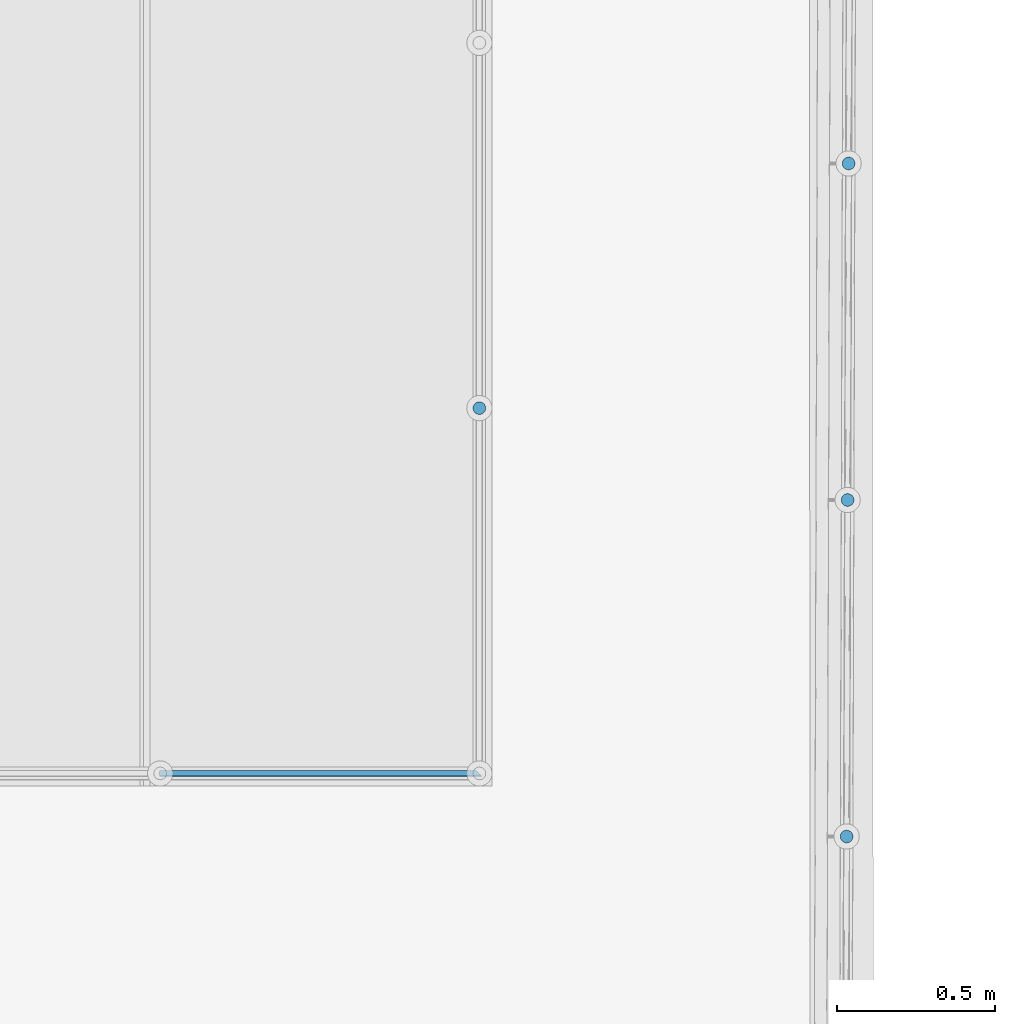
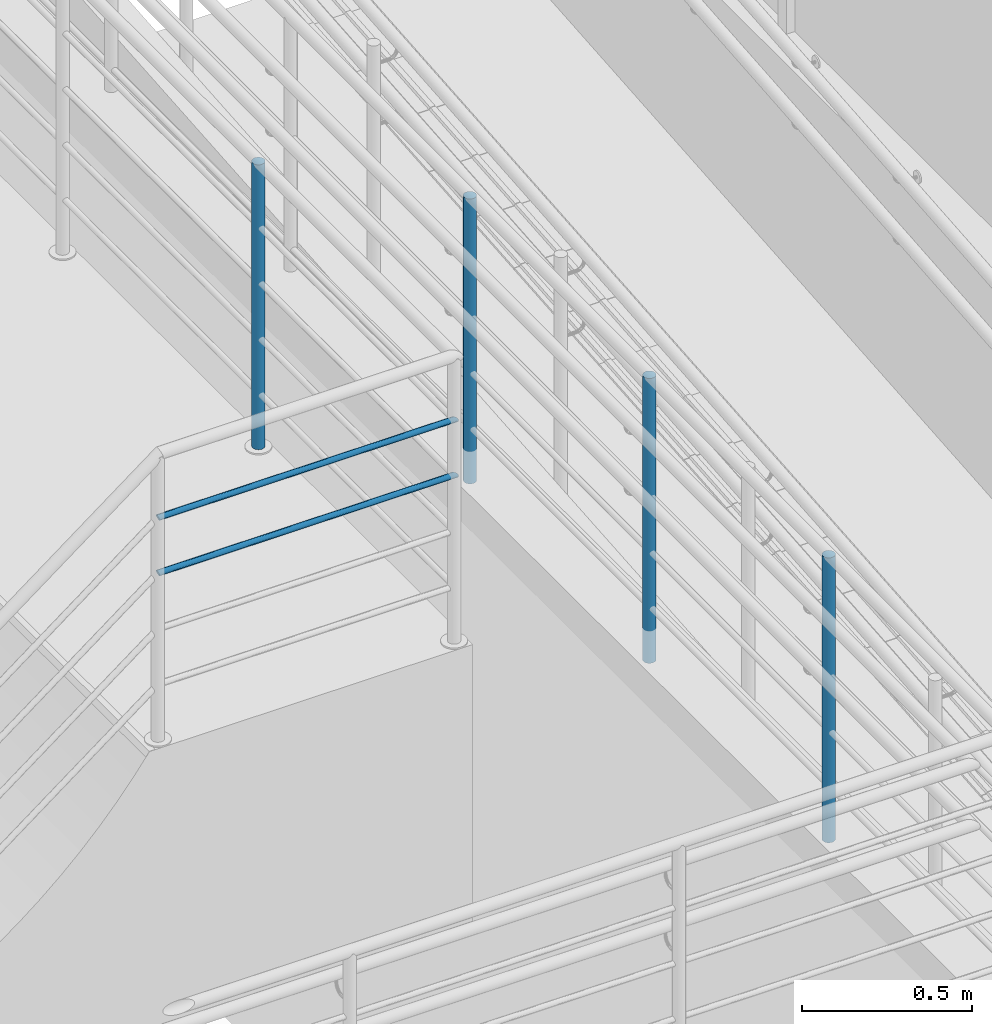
# One storey, part 45 of 237: 6 building element parts, 2 elements without a shape of their own.
"""IFC2X3 building model written with IfcOpenShell, lengths in millimetres."""

from ifc_helpers import new_model, entity, si_unit, converted_unit, derived_unit, money_unit, direction, frame, origin_with_axes, place, context, subcontext, project, spatial, faceted_brep, material, type_object, element, aggregate, save


model = new_model("IFC2X3")

# Units and contexts
model_context = context("Model", 3, precision=0.01, world=origin_with_axes(), true_north=direction((0.0, 1.0)))
body_context = subcontext(model_context, "Body", "Model", "MODEL_VIEW")
ifc_project = project(units=[si_unit("LENGTHUNIT", "METRE", prefix="MILLI"), si_unit("AREAUNIT", "SQUARE_METRE"), si_unit("VOLUMEUNIT", "CUBIC_METRE"), converted_unit("PLANEANGLEUNIT", "DEGREE", entity("IfcPlaneAngleMeasure", 0.0174532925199), si_unit("PLANEANGLEUNIT", "RADIAN"), dimensions=[0, 0, 0, 0, 0, 0, 0]), money_unit("USD"), converted_unit("TIMEUNIT", "Year", entity("IfcTimeMeasure", 31556926.0), si_unit("TIMEUNIT", "SECOND"), dimensions=[0, 0, 1, 0, 0, 0, 0]), si_unit("MASSUNIT", "GRAM", prefix="KILO"), si_unit("THERMODYNAMICTEMPERATUREUNIT", "DEGREE_CELSIUS"), si_unit("LUMINOUSINTENSITYUNIT", "LUMEN"), si_unit("ENERGYUNIT", "JOULE", prefix="MEGA"), derived_unit("THERMALCONDUCTANCEUNIT", [(si_unit("POWERUNIT", "WATT"), 1), (si_unit("LENGTHUNIT", "METRE"), -1), (si_unit("THERMODYNAMICTEMPERATUREUNIT", "KELVIN"), -1)]), derived_unit("SPECIFICHEATCAPACITYUNIT", [(si_unit("ENERGYUNIT", "JOULE"), 1), (si_unit("MASSUNIT", "GRAM", prefix="KILO"), -1), (si_unit("THERMODYNAMICTEMPERATUREUNIT", "KELVIN"), -1)]), derived_unit("MASSDENSITYUNIT", [(si_unit("MASSUNIT", "GRAM", prefix="KILO"), 1), (si_unit("VOLUMEUNIT", "CUBIC_METRE"), -1)])], contexts=[model_context])

# Site, building, storey
site_placement = place(None, origin_with_axes())
site = spatial("IfcSite", under=ifc_project, at=site_placement, Name="Local", CompositionType="ELEMENT")
building_placement = place(site_placement, origin_with_axes())
building = spatial("IfcBuilding", under=site, at=building_placement, Name="Construção", CompositionType="ELEMENT")
storey_placement = place(building_placement, origin_with_axes())
storey = spatial("IfcBuildingStorey", under=building, at=storey_placement, Name="Pavimento Térreo", CompositionType="ELEMENT", Elevation=0.0)

# Railing, building element parts
railing_type = type_object("IfcRailingType", Name="Tipo de Guarda-Corpo", PredefinedType="NOTDEFINED")
railing_1_placement = place(storey_placement, frame((70326.6870103, 28675.2458388, -1357.10819655), z_axis=(0.0, 0.0, 1.0), x_axis=(1.0, 0.0, 0.0)))
railing_1 = element("IfcRailing", 1, at=railing_1_placement, inside=storey, type_object=railing_type, Name="Guarda-Corpo - 004", PredefinedType="NOTDEFINED")
ifc_material = material(Name="Aço - Inoxidável")
building_element_part_1_placement = place(railing_1_placement, origin_with_axes())
building_element_part_1 = element("IfcBuildingElementPart", 2, at=building_element_part_1_placement, material=ifc_material, Name="Aço - Inoxidável", context=body_context, shape_type="Brep", body=[
    faceted_brep([(-4724.4742569, -793.131475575, 5.0), (-4724.16001459, -789.659437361, 5.0), (-4724.16001459, -789.659437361, 1030.0), (-4724.4742569, -793.131475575, 1030.0), (-4724.45345944, -786.185579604, 5.0), (-4725.38663827, -796.496198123, 5.0), (-4726.86943646, -799.651369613, 5.0), (-4728.87759739, -802.501121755, 5.0), (-4731.35010411, -804.958866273, 5.0), (-4734.21183075, -806.949925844, 5.0), (-4737.3758252, -808.413803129, 5.0), (-4740.74595109, -809.306018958, 5.0), (-4744.21980884, -809.599463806, 5.0), (-4747.69184706, -809.285221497, 5.0), (-4751.05656961, -808.372840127, 5.0), (-4754.2117411, -806.890041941, 5.0), (-4757.06149324, -804.881881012, 5.0), (-4759.51923776, -802.409374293, 5.0), (-4761.51029733, -799.54764765, 5.0), (-4762.97417461, -796.3836532, 5.0), (-4763.86639044, -793.013527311, 5.0), (-4764.15983529, -789.539669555, 5.0), (-4763.84559298, -786.067631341, 5.0), (-4762.93321161, -782.702908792, 5.0), (-4761.45041342, -779.547737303, 5.0), (-4759.4422525, -776.69798516, 5.0), (-4756.96974578, -774.240240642, 5.0), (-4754.10801913, -772.249181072, 5.0), (-4750.94402468, -770.785303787, 5.0), (-4747.57389879, -769.893087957, 5.0), (-4744.10004104, -769.59964311, 5.0), (-4740.62800282, -769.913885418, 5.0), (-4737.26328028, -770.826266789, 5.0), (-4734.10810879, -772.309064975, 5.0), (-4731.25835664, -774.317225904, 5.0), (-4728.80061213, -776.789732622, 5.0), (-4726.80955256, -779.651459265, 5.0), (-4725.34567527, -782.815453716, 5.0), (-4724.45345944, -786.185579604, 1030.0), (-4747.69184706, -809.285221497, 1030.0), (-4744.21980884, -809.599463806, 1030.0), (-4740.74595109, -809.306018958, 1030.0), (-4737.3758252, -808.413803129, 1030.0), (-4734.21183075, -806.949925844, 1030.0), (-4731.35010411, -804.958866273, 1030.0), (-4728.87759739, -802.501121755, 1030.0), (-4726.86943646, -799.651369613, 1030.0), (-4725.38663827, -796.496198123, 1030.0), (-4725.34567527, -782.815453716, 1030.0), (-4726.80955256, -779.651459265, 1030.0), (-4728.80061213, -776.789732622, 1030.0), (-4731.25835664, -774.317225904, 1030.0), (-4734.10810879, -772.309064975, 1030.0), (-4737.26328028, -770.826266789, 1030.0), (-4740.62800282, -769.913885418, 1030.0), (-4744.10004104, -769.59964311, 1030.0), (-4747.57389879, -769.893087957, 1030.0), (-4750.94402468, -770.785303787, 1030.0), (-4754.10801913, -772.249181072, 1030.0), (-4756.96974578, -774.240240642, 1030.0), (-4759.4422525, -776.69798516, 1030.0), (-4761.45041342, -779.547737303, 1030.0), (-4762.93321161, -782.702908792, 1030.0), (-4763.84559298, -786.067631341, 1030.0), (-4764.15983529, -789.539669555, 1030.0), (-4763.86639044, -793.013527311, 1030.0), (-4762.97417461, -796.3836532, 1030.0), (-4761.51029733, -799.54764765, 1030.0), (-4759.51923776, -802.409374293, 1030.0), (-4757.06149324, -804.881881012, 1030.0), (-4754.2117411, -806.890041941, 1030.0), (-4751.05656961, -808.372840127, 1030.0)], [[[0, 1, 2, 3]], [[4, 1, 0, 5, 6, 7, 8, 9, 10, 11, 12, 13, 14, 15, 16, 17, 18, 19, 20, 21, 22, 23, 24, 25, 26, 27, 28, 29, 30, 31, 32, 33, 34, 35, 36, 37]], [[1, 4, 38, 2]], [[39, 40, 41, 42, 43, 44, 45, 46, 47, 3, 2, 38, 48, 49, 50, 51, 52, 53, 54, 55, 56, 57, 58, 59, 60, 61, 62, 63, 64, 65, 66, 67, 68, 69, 70, 71]], [[5, 0, 3, 47]], [[6, 5, 47, 46]], [[7, 6, 46, 45]], [[8, 7, 45, 44]], [[9, 8, 44, 43]], [[10, 9, 43, 42]], [[11, 10, 42, 41]], [[12, 11, 41, 40]], [[13, 12, 40, 39]], [[14, 13, 39, 71]], [[15, 14, 71, 70]], [[16, 15, 70, 69]], [[17, 16, 69, 68]], [[18, 17, 68, 67]], [[19, 18, 67, 66]], [[20, 19, 66, 65]], [[21, 20, 65, 64]], [[22, 21, 64, 63]], [[23, 22, 63, 62]], [[24, 23, 62, 61]], [[25, 24, 61, 60]], [[26, 25, 60, 59]], [[27, 26, 59, 58]], [[28, 27, 58, 57]], [[29, 28, 57, 56]], [[30, 29, 56, 55]], [[31, 30, 55, 54]], [[32, 31, 54, 53]], [[33, 32, 53, 52]], [[34, 33, 52, 51]], [[35, 34, 51, 50]], [[36, 35, 50, 49]], [[37, 36, 49, 48]], [[4, 37, 48, 38]]]),
])
building_element_part_2_placement = place(railing_1_placement, origin_with_axes())
building_element_part_2 = element("IfcBuildingElementPart", 3, at=building_element_part_2_placement, material=ifc_material, Name="Aço - Inoxidável", context=body_context, shape_type="Brep", body=[
    faceted_brep([(-4721.29115554, 269.954574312, 5.0), (-4720.97691323, 273.426612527, 5.0), (-4720.97691323, 273.426612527, 1030.0), (-4721.29115554, 269.954574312, 1030.0), (-4721.27035808, 276.900470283, 5.0), (-4722.20353691, 266.589851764, 5.0), (-4723.6863351, 263.434680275, 5.0), (-4725.69449603, 260.584928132, 5.0), (-4728.16700275, 258.127183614, 5.0), (-4731.02872939, 256.136124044, 5.0), (-4734.19272384, 254.672246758, 5.0), (-4737.56284973, 253.780030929, 5.0), (-4741.03670748, 253.486586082, 5.0), (-4744.5087457, 253.80082839, 5.0), (-4747.87346825, 254.713209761, 5.0), (-4751.02863974, 256.196007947, 5.0), (-4753.87839188, 258.204168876, 5.0), (-4756.3361364, 260.676675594, 5.0), (-4758.32719597, 263.538402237, 5.0), (-4759.79107325, 266.702396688, 5.0), (-4760.68328908, 270.072522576, 5.0), (-4760.97673393, 273.546380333, 5.0), (-4760.66249162, 277.018418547, 5.0), (-4759.75011025, 280.383141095, 5.0), (-4758.26731206, 283.538312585, 5.0), (-4756.25915114, 286.388064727, 5.0), (-4753.78664442, 288.845809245, 5.0), (-4750.92491777, 290.836868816, 5.0), (-4747.76092332, 292.300746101, 5.0), (-4744.39079743, 293.19296193, 5.0), (-4740.91693968, 293.486406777, 5.0), (-4737.44490146, 293.172164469, 5.0), (-4734.08017892, 292.259783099, 5.0), (-4730.92500743, 290.776984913, 5.0), (-4728.07525528, 288.768823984, 5.0), (-4725.61751077, 286.296317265, 5.0), (-4723.6264512, 283.434590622, 5.0), (-4722.16257391, 280.270596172, 5.0), (-4721.27035808, 276.900470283, 1030.0), (-4744.5087457, 253.80082839, 1030.0), (-4741.03670748, 253.486586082, 1030.0), (-4737.56284973, 253.780030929, 1030.0), (-4734.19272384, 254.672246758, 1030.0), (-4731.02872939, 256.136124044, 1030.0), (-4728.16700275, 258.127183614, 1030.0), (-4725.69449603, 260.584928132, 1030.0), (-4723.6863351, 263.434680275, 1030.0), (-4722.20353691, 266.589851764, 1030.0), (-4722.16257391, 280.270596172, 1030.0), (-4723.6264512, 283.434590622, 1030.0), (-4725.61751077, 286.296317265, 1030.0), (-4728.07525528, 288.768823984, 1030.0), (-4730.92500743, 290.776984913, 1030.0), (-4734.08017892, 292.259783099, 1030.0), (-4737.44490146, 293.172164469, 1030.0), (-4740.91693968, 293.486406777, 1030.0), (-4744.39079743, 293.19296193, 1030.0), (-4747.76092332, 292.300746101, 1030.0), (-4750.92491777, 290.836868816, 1030.0), (-4753.78664442, 288.845809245, 1030.0), (-4756.25915114, 286.388064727, 1030.0), (-4758.26731206, 283.538312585, 1030.0), (-4759.75011025, 280.383141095, 1030.0), (-4760.66249162, 277.018418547, 1030.0), (-4760.97673393, 273.546380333, 1030.0), (-4760.68328908, 270.072522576, 1030.0), (-4759.79107325, 266.702396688, 1030.0), (-4758.32719597, 263.538402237, 1030.0), (-4756.3361364, 260.676675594, 1030.0), (-4753.87839188, 258.204168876, 1030.0), (-4751.02863974, 256.196007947, 1030.0), (-4747.87346825, 254.713209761, 1030.0)], [[[0, 1, 2, 3]], [[4, 1, 0, 5, 6, 7, 8, 9, 10, 11, 12, 13, 14, 15, 16, 17, 18, 19, 20, 21, 22, 23, 24, 25, 26, 27, 28, 29, 30, 31, 32, 33, 34, 35, 36, 37]], [[1, 4, 38, 2]], [[39, 40, 41, 42, 43, 44, 45, 46, 47, 3, 2, 38, 48, 49, 50, 51, 52, 53, 54, 55, 56, 57, 58, 59, 60, 61, 62, 63, 64, 65, 66, 67, 68, 69, 70, 71]], [[5, 0, 3, 47]], [[6, 5, 47, 46]], [[7, 6, 46, 45]], [[8, 7, 45, 44]], [[9, 8, 44, 43]], [[10, 9, 43, 42]], [[11, 10, 42, 41]], [[12, 11, 41, 40]], [[13, 12, 40, 39]], [[14, 13, 39, 71]], [[15, 14, 71, 70]], [[16, 15, 70, 69]], [[17, 16, 69, 68]], [[18, 17, 68, 67]], [[19, 18, 67, 66]], [[20, 19, 66, 65]], [[21, 20, 65, 64]], [[22, 21, 64, 63]], [[23, 22, 63, 62]], [[24, 23, 62, 61]], [[25, 24, 61, 60]], [[26, 25, 60, 59]], [[27, 26, 59, 58]], [[28, 27, 58, 57]], [[29, 28, 57, 56]], [[30, 29, 56, 55]], [[31, 30, 55, 54]], [[32, 31, 54, 53]], [[33, 32, 53, 52]], [[34, 33, 52, 51]], [[35, 34, 51, 50]], [[36, 35, 50, 49]], [[37, 36, 49, 48]], [[4, 37, 48, 38]]]),
])
building_element_part_3_placement = place(railing_1_placement, origin_with_axes())
building_element_part_3 = element("IfcBuildingElementPart", 4, at=building_element_part_3_placement, material=ifc_material, Name="Aço - Inoxidável", context=body_context, shape_type="Brep", body=[
    faceted_brep([(-4718.10805418, 1333.0406242, 5.0), (-4717.79381187, 1336.51266241, 5.0), (-4717.79381187, 1336.51266241, 1030.0), (-4718.10805418, 1333.0406242, 1030.0), (-4718.08725672, 1339.98652017, 5.0), (-4719.02043555, 1329.67590165, 5.0), (-4720.50323374, 1326.52073016, 5.0), (-4722.51139467, 1323.67097802, 5.0), (-4724.98390139, 1321.2132335, 5.0), (-4727.84562803, 1319.22217393, 5.0), (-4731.00962248, 1317.75829665, 5.0), (-4734.37974837, 1316.86608082, 5.0), (-4737.85360612, 1316.57263597, 5.0), (-4741.32564434, 1316.88687828, 5.0), (-4744.69036689, 1317.79925965, 5.0), (-4747.84553838, 1319.28205783, 5.0), (-4750.69529052, 1321.29021876, 5.0), (-4753.15303504, 1323.76272548, 5.0), (-4755.14409461, 1326.62445212, 5.0), (-4756.60797189, 1329.78844658, 5.0), (-4757.50018772, 1333.15857246, 5.0), (-4757.79363257, 1336.63243022, 5.0), (-4757.47939026, 1340.10446843, 5.0), (-4756.56700889, 1343.46919098, 5.0), (-4755.0842107, 1346.62436247, 5.0), (-4753.07604978, 1349.47411461, 5.0), (-4750.60354306, 1351.93185913, 5.0), (-4747.74181641, 1353.9229187, 5.0), (-4744.57782196, 1355.38679599, 5.0), (-4741.20769608, 1356.27901182, 5.0), (-4737.73383832, 1356.57245666, 5.0), (-4734.2618001, 1356.25821436, 5.0), (-4730.89707756, 1355.34583299, 5.0), (-4727.74190607, 1353.8630348, 5.0), (-4724.89215392, 1351.85487387, 5.0), (-4722.43440941, 1349.38236715, 5.0), (-4720.44334984, 1346.52064051, 5.0), (-4718.97947255, 1343.35664606, 5.0), (-4718.08725672, 1339.98652017, 1030.0), (-4741.32564434, 1316.88687828, 1030.0), (-4737.85360612, 1316.57263597, 1030.0), (-4734.37974837, 1316.86608082, 1030.0), (-4731.00962248, 1317.75829665, 1030.0), (-4727.84562803, 1319.22217393, 1030.0), (-4724.98390139, 1321.2132335, 1030.0), (-4722.51139467, 1323.67097802, 1030.0), (-4720.50323374, 1326.52073016, 1030.0), (-4719.02043555, 1329.67590165, 1030.0), (-4718.97947255, 1343.35664606, 1030.0), (-4720.44334984, 1346.52064051, 1030.0), (-4722.43440941, 1349.38236715, 1030.0), (-4724.89215392, 1351.85487387, 1030.0), (-4727.74190607, 1353.8630348, 1030.0), (-4730.89707756, 1355.34583299, 1030.0), (-4734.2618001, 1356.25821436, 1030.0), (-4737.73383832, 1356.57245666, 1030.0), (-4741.20769608, 1356.27901182, 1030.0), (-4744.57782196, 1355.38679599, 1030.0), (-4747.74181641, 1353.9229187, 1030.0), (-4750.60354306, 1351.93185913, 1030.0), (-4753.07604978, 1349.47411461, 1030.0), (-4755.0842107, 1346.62436247, 1030.0), (-4756.56700889, 1343.46919098, 1030.0), (-4757.47939026, 1340.10446843, 1030.0), (-4757.79363257, 1336.63243022, 1030.0), (-4757.50018772, 1333.15857246, 1030.0), (-4756.60797189, 1329.78844658, 1030.0), (-4755.14409461, 1326.62445212, 1030.0), (-4753.15303504, 1323.76272548, 1030.0), (-4750.69529052, 1321.29021876, 1030.0), (-4747.84553838, 1319.28205783, 1030.0), (-4744.69036689, 1317.79925965, 1030.0)], [[[0, 1, 2, 3]], [[4, 1, 0, 5, 6, 7, 8, 9, 10, 11, 12, 13, 14, 15, 16, 17, 18, 19, 20, 21, 22, 23, 24, 25, 26, 27, 28, 29, 30, 31, 32, 33, 34, 35, 36, 37]], [[1, 4, 38, 2]], [[39, 40, 41, 42, 43, 44, 45, 46, 47, 3, 2, 38, 48, 49, 50, 51, 52, 53, 54, 55, 56, 57, 58, 59, 60, 61, 62, 63, 64, 65, 66, 67, 68, 69, 70, 71]], [[5, 0, 3, 47]], [[6, 5, 47, 46]], [[7, 6, 46, 45]], [[8, 7, 45, 44]], [[9, 8, 44, 43]], [[10, 9, 43, 42]], [[11, 10, 42, 41]], [[12, 11, 41, 40]], [[13, 12, 40, 39]], [[14, 13, 39, 71]], [[15, 14, 71, 70]], [[16, 15, 70, 69]], [[17, 16, 69, 68]], [[18, 17, 68, 67]], [[19, 18, 67, 66]], [[20, 19, 66, 65]], [[21, 20, 65, 64]], [[22, 21, 64, 63]], [[23, 22, 63, 62]], [[24, 23, 62, 61]], [[25, 24, 61, 60]], [[26, 25, 60, 59]], [[27, 26, 59, 58]], [[28, 27, 58, 57]], [[29, 28, 57, 56]], [[30, 29, 56, 55]], [[31, 30, 55, 54]], [[32, 31, 54, 53]], [[33, 32, 53, 52]], [[34, 33, 52, 51]], [[35, 34, 51, 50]], [[36, 35, 50, 49]], [[37, 36, 49, 48]], [[4, 37, 48, 38]]]),
])
aggregate(railing_1, [building_element_part_1, building_element_part_2, building_element_part_3])

railing_2_placement = place(storey_placement, frame((61612.4440926, 28006.4497128, -1265.99547451), z_axis=(0.0, 0.0, 1.0), x_axis=(-1.0, 0.0, 0.0)))
railing_2 = element("IfcRailing", 5, at=railing_2_placement, inside=storey, type_object=railing_type, Name="Guarda-Corpo - 001", PredefinedType="NOTDEFINED")
building_element_part_4_placement = place(railing_2_placement, origin_with_axes())
building_element_part_4 = element("IfcBuildingElementPart", 6, at=building_element_part_4_placement, material=ifc_material, Name="Aço - Inoxidável", context=body_context, shape_type="Brep", body=[
    faceted_brep([(-1801.77109729, -88.4865411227, 1508.88727796), (-1801.18920335, -88.3346186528, 1510.62375974), (-2800.15211336, -88.3346186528, 1510.62375974), (-2800.00019088, -88.4865411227, 1508.88727796), (-1802.35299124, -88.3346186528, 1507.15079618), (-1802.91720463, -87.8834673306, 1505.46707653), (-1803.44659413, -87.1467951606, 1503.88727796), (-1803.92507451, -86.1469855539, 1502.45940186), (-1804.33810738, -84.9144172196, 1501.22683353), (-1804.67314294, -83.4865411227, 1500.22702392), (-1804.92000132, -81.906742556, 1499.49035175), (-1805.07118184, -80.2230228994, 1499.03920043), (-1805.12209097, -78.4865411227, 1498.88727796), (-1805.07118184, -76.7500593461, 1499.03920043), (-1804.92000132, -75.0663396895, 1499.49035175), (-1804.67314294, -73.4865411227, 1500.22702392), (-1804.33810738, -72.0586650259, 1501.22683353), (-1803.92507451, -70.8260966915, 1502.45940186), (-1803.44659413, -69.8262870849, 1503.88727796), (-1802.91720463, -69.0896149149, 1505.46707653), (-1802.35299124, -68.6384635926, 1507.15079618), (-1801.77109729, -68.4865411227, 1508.88727796), (-1801.18920335, -68.6384635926, 1510.62375974), (-1800.62498995, -69.0896149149, 1512.30747939), (-1800.09560045, -69.8262870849, 1513.88727796), (-1799.61712008, -70.8260966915, 1515.31515406), (-1799.20408721, -72.0586650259, 1516.54772239), (-1798.86905164, -73.4865411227, 1517.547532), (-1798.62219326, -75.0663396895, 1518.28420417), (-1798.47101274, -76.7500593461, 1518.73535549), (-1798.42010361, -78.4865411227, 1518.88727796), (-1798.47101274, -80.2230228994, 1518.73535549), (-1798.62219326, -81.906742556, 1518.28420417), (-1798.86905164, -83.4865411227, 1517.547532), (-1799.20408721, -84.9144172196, 1516.54772239), (-1799.61712008, -86.1469855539, 1515.31515406), (-1800.09560045, -87.1467951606, 1513.88727796), (-1800.62498995, -87.8834673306, 1512.30747939), (-2800.6032647, -87.8834673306, 1512.30747939), (-2801.33993689, -87.1467951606, 1513.88727796), (-2802.33974653, -86.1469855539, 1515.31515406), (-2803.57231491, -84.9144172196, 1516.54772239), (-2805.00019105, -83.4865411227, 1517.547532), (-2806.57998967, -81.906742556, 1518.28420417), (-2808.26370938, -80.2230228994, 1518.73535549), (-2810.00019121, -78.4865411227, 1518.88727796), (-2811.73667305, -76.7500593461, 1518.73535549), (-2813.42039276, -75.0663396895, 1518.28420417), (-2815.00019138, -73.4865411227, 1517.547532), (-2816.42806752, -72.0586650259, 1516.54772239), (-2817.6606359, -70.8260966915, 1515.31515406), (-2818.66044554, -69.8262870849, 1513.88727796), (-2819.39711773, -69.0896149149, 1512.30747939), (-2819.84826907, -68.6384635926, 1510.62375974), (-2820.00019154, -68.4865411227, 1508.88727796), (-2819.84826907, -68.6384635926, 1507.15079618), (-2819.39711773, -69.0896149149, 1505.46707653), (-2818.66044554, -69.8262870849, 1503.88727796), (-2817.6606359, -70.8260966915, 1502.45940186), (-2816.42806752, -72.0586650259, 1501.22683353), (-2815.00019138, -73.4865411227, 1500.22702392), (-2813.42039276, -75.0663396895, 1499.49035175), (-2811.73667305, -76.7500593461, 1499.03920043), (-2810.00019121, -78.4865411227, 1498.88727796), (-2808.26370938, -80.2230228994, 1499.03920043), (-2806.57998967, -81.906742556, 1499.49035175), (-2805.00019105, -83.4865411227, 1500.22702392), (-2803.57231491, -84.9144172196, 1501.22683353), (-2802.33974653, -86.1469855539, 1502.45940186), (-2801.33993689, -87.1467951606, 1503.88727796), (-2800.6032647, -87.8834673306, 1505.46707653), (-2800.15211336, -88.3346186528, 1507.15079618)], [[[0, 1, 2, 3]], [[0, 4, 5, 6, 7, 8, 9, 10, 11, 12, 13, 14, 15, 16, 17, 18, 19, 20, 21, 22, 23, 24, 25, 26, 27, 28, 29, 30, 31, 32, 33, 34, 35, 36, 37, 1]], [[1, 37, 38, 2]], [[3, 2, 38, 39, 40, 41, 42, 43, 44, 45, 46, 47, 48, 49, 50, 51, 52, 53, 54, 55, 56, 57, 58, 59, 60, 61, 62, 63, 64, 65, 66, 67, 68, 69, 70, 71]], [[4, 0, 3, 71]], [[5, 4, 71, 70]], [[6, 5, 70, 69]], [[7, 6, 69, 68]], [[8, 7, 68, 67]], [[9, 8, 67, 66]], [[10, 9, 66, 65]], [[11, 10, 65, 64]], [[12, 11, 64, 63]], [[13, 12, 63, 62]], [[14, 13, 62, 61]], [[15, 14, 61, 60]], [[16, 15, 60, 59]], [[17, 16, 59, 58]], [[18, 17, 58, 57]], [[19, 18, 57, 56]], [[20, 19, 56, 55]], [[21, 20, 55, 54]], [[22, 21, 54, 53]], [[23, 22, 53, 52]], [[24, 23, 52, 51]], [[25, 24, 51, 50]], [[26, 25, 50, 49]], [[27, 26, 49, 48]], [[28, 27, 48, 47]], [[29, 28, 47, 46]], [[30, 29, 46, 45]], [[31, 30, 45, 44]], [[32, 31, 44, 43]], [[33, 32, 43, 42]], [[34, 33, 42, 41]], [[35, 34, 41, 40]], [[36, 35, 40, 39]], [[37, 36, 39, 38]]]),
])
building_element_part_5_placement = place(railing_2_placement, origin_with_axes())
building_element_part_5 = element("IfcBuildingElementPart", 7, at=building_element_part_5_placement, material=ifc_material, Name="Aço - Inoxidável", context=body_context, shape_type="Brep", body=[
    faceted_brep([(-1801.77109729, -88.4865411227, 1708.88727796), (-1801.18920335, -88.3346186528, 1710.62375974), (-2800.15211336, -88.3346186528, 1710.62375974), (-2800.00019088, -88.4865411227, 1708.88727796), (-1802.35299124, -88.3346186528, 1707.15079618), (-1802.91720463, -87.8834673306, 1705.46707653), (-1803.44659413, -87.1467951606, 1703.88727796), (-1803.92507451, -86.1469855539, 1702.45940186), (-1804.33810738, -84.9144172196, 1701.22683353), (-1804.67314294, -83.4865411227, 1700.22702392), (-1804.92000132, -81.906742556, 1699.49035175), (-1805.07118184, -80.2230228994, 1699.03920043), (-1805.12209097, -78.4865411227, 1698.88727796), (-1805.07118184, -76.7500593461, 1699.03920043), (-1804.92000132, -75.0663396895, 1699.49035175), (-1804.67314294, -73.4865411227, 1700.22702392), (-1804.33810738, -72.0586650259, 1701.22683353), (-1803.92507451, -70.8260966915, 1702.45940186), (-1803.44659413, -69.8262870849, 1703.88727796), (-1802.91720463, -69.0896149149, 1705.46707653), (-1802.35299124, -68.6384635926, 1707.15079618), (-1801.77109729, -68.4865411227, 1708.88727796), (-1801.18920335, -68.6384635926, 1710.62375974), (-1800.62498995, -69.0896149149, 1712.30747939), (-1800.09560045, -69.8262870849, 1713.88727796), (-1799.61712008, -70.8260966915, 1715.31515406), (-1799.20408721, -72.0586650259, 1716.54772239), (-1798.86905164, -73.4865411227, 1717.547532), (-1798.62219326, -75.0663396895, 1718.28420417), (-1798.47101274, -76.7500593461, 1718.73535549), (-1798.42010361, -78.4865411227, 1718.88727796), (-1798.47101274, -80.2230228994, 1718.73535549), (-1798.62219326, -81.906742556, 1718.28420417), (-1798.86905164, -83.4865411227, 1717.547532), (-1799.20408721, -84.9144172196, 1716.54772239), (-1799.61712008, -86.1469855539, 1715.31515406), (-1800.09560045, -87.1467951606, 1713.88727796), (-1800.62498995, -87.8834673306, 1712.30747939), (-2800.6032647, -87.8834673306, 1712.30747939), (-2801.33993689, -87.1467951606, 1713.88727796), (-2802.33974653, -86.1469855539, 1715.31515406), (-2803.57231491, -84.9144172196, 1716.54772239), (-2805.00019105, -83.4865411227, 1717.547532), (-2806.57998967, -81.906742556, 1718.28420417), (-2808.26370938, -80.2230228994, 1718.73535549), (-2810.00019121, -78.4865411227, 1718.88727796), (-2811.73667305, -76.7500593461, 1718.73535549), (-2813.42039276, -75.0663396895, 1718.28420417), (-2815.00019138, -73.4865411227, 1717.547532), (-2816.42806752, -72.0586650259, 1716.54772239), (-2817.6606359, -70.8260966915, 1715.31515406), (-2818.66044554, -69.8262870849, 1713.88727796), (-2819.39711773, -69.0896149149, 1712.30747939), (-2819.84826907, -68.6384635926, 1710.62375974), (-2820.00019154, -68.4865411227, 1708.88727796), (-2819.84826907, -68.6384635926, 1707.15079618), (-2819.39711773, -69.0896149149, 1705.46707653), (-2818.66044554, -69.8262870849, 1703.88727796), (-2817.6606359, -70.8260966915, 1702.45940186), (-2816.42806752, -72.0586650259, 1701.22683353), (-2815.00019138, -73.4865411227, 1700.22702392), (-2813.42039276, -75.0663396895, 1699.49035175), (-2811.73667305, -76.7500593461, 1699.03920043), (-2810.00019121, -78.4865411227, 1698.88727796), (-2808.26370938, -80.2230228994, 1699.03920043), (-2806.57998967, -81.906742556, 1699.49035175), (-2805.00019105, -83.4865411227, 1700.22702392), (-2803.57231491, -84.9144172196, 1701.22683353), (-2802.33974653, -86.1469855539, 1702.45940186), (-2801.33993689, -87.1467951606, 1703.88727796), (-2800.6032647, -87.8834673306, 1705.46707653), (-2800.15211336, -88.3346186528, 1707.15079618)], [[[0, 1, 2, 3]], [[0, 4, 5, 6, 7, 8, 9, 10, 11, 12, 13, 14, 15, 16, 17, 18, 19, 20, 21, 22, 23, 24, 25, 26, 27, 28, 29, 30, 31, 32, 33, 34, 35, 36, 37, 1]], [[1, 37, 38, 2]], [[3, 2, 38, 39, 40, 41, 42, 43, 44, 45, 46, 47, 48, 49, 50, 51, 52, 53, 54, 55, 56, 57, 58, 59, 60, 61, 62, 63, 64, 65, 66, 67, 68, 69, 70, 71]], [[4, 0, 3, 71]], [[5, 4, 71, 70]], [[6, 5, 70, 69]], [[7, 6, 69, 68]], [[8, 7, 68, 67]], [[9, 8, 67, 66]], [[10, 9, 66, 65]], [[11, 10, 65, 64]], [[12, 11, 64, 63]], [[13, 12, 63, 62]], [[14, 13, 62, 61]], [[15, 14, 61, 60]], [[16, 15, 60, 59]], [[17, 16, 59, 58]], [[18, 17, 58, 57]], [[19, 18, 57, 56]], [[20, 19, 56, 55]], [[21, 20, 55, 54]], [[22, 21, 54, 53]], [[23, 22, 53, 52]], [[24, 23, 52, 51]], [[25, 24, 51, 50]], [[26, 25, 50, 49]], [[27, 26, 49, 48]], [[28, 27, 48, 47]], [[29, 28, 47, 46]], [[30, 29, 46, 45]], [[31, 30, 45, 44]], [[32, 31, 44, 43]], [[33, 32, 43, 42]], [[34, 33, 42, 41]], [[35, 34, 41, 40]], [[36, 35, 40, 39]], [[37, 36, 39, 38]]]),
])
building_element_part_6_placement = place(railing_2_placement, origin_with_axes())
building_element_part_6 = element("IfcBuildingElementPart", 8, at=building_element_part_6_placement, material=ifc_material, Name="Aço - Inoxidável", context=body_context, shape_type="Brep", body=[
    faceted_brep([(-2829.69630841, -1229.01214995, 913.887277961), (-2830.00015323, -1232.48511351, 913.887277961), (-2830.00015323, -1232.48511351, 1938.88727796), (-2829.69630841, -1229.01214995, 1938.88727796), (-2829.69630818, -1235.95807705, 913.887277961), (-2828.79400588, -1225.6447106, 913.887277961), (-2827.32066164, -1222.48511342, 913.887277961), (-2825.32104252, -1219.62936116, 913.887277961), (-2822.85590593, -1217.16422441, 913.887277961), (-2820.0001538, -1215.16460511, 913.887277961), (-2816.84055672, -1213.69126066, 913.887277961), (-2813.47311744, -1212.78895791, 913.887277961), (-2810.00015389, -1212.48511285, 913.887277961), (-2806.52719033, -1212.78895768, 913.887277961), (-2803.15975099, -1213.69126021, 913.887277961), (-2800.0001538, -1215.16460445, 913.887277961), (-2797.14440154, -1217.16422357, 913.887277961), (-2794.6792648, -1219.62936015, 913.887277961), (-2792.67964549, -1222.48511228, 913.887277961), (-2791.20630104, -1225.64470937, 913.887277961), (-2790.30399829, -1229.01214865, 913.887277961), (-2790.00015323, -1232.48511219, 913.887277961), (-2790.30399806, -1235.95807576, 913.887277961), (-2791.20630059, -1239.3255151, 913.887277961), (-2792.67964483, -1242.48511228, 913.887277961), (-2794.67926395, -1245.34086454, 913.887277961), (-2797.14440054, -1247.80600129, 913.887277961), (-2800.00015266, -1249.8056206, 913.887277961), (-2803.15974975, -1251.27896504, 913.887277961), (-2806.52718903, -1252.1812678, 913.887277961), (-2810.00015258, -1252.48511285, 913.887277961), (-2813.47311614, -1252.18126803, 913.887277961), (-2816.84055548, -1251.27896549, 913.887277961), (-2820.00015266, -1249.80562126, 913.887277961), (-2822.85590492, -1247.80600214, 913.887277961), (-2825.32104167, -1245.34086555, 913.887277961), (-2827.32066098, -1242.48511342, 913.887277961), (-2828.79400543, -1239.32551634, 913.887277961), (-2829.69630818, -1235.95807705, 1938.88727796), (-2806.52719033, -1212.78895768, 1938.88727796), (-2810.00015389, -1212.48511285, 1938.88727796), (-2813.47311744, -1212.78895791, 1938.88727796), (-2816.84055672, -1213.69126066, 1938.88727796), (-2820.0001538, -1215.16460511, 1938.88727796), (-2822.85590593, -1217.16422441, 1938.88727796), (-2825.32104252, -1219.62936116, 1938.88727796), (-2827.32066164, -1222.48511342, 1938.88727796), (-2828.79400588, -1225.6447106, 1938.88727796), (-2828.79400543, -1239.32551634, 1938.88727796), (-2827.32066098, -1242.48511342, 1938.88727796), (-2825.32104167, -1245.34086555, 1938.88727796), (-2822.85590492, -1247.80600214, 1938.88727796), (-2820.00015266, -1249.80562126, 1938.88727796), (-2816.84055548, -1251.27896549, 1938.88727796), (-2813.47311614, -1252.18126803, 1938.88727796), (-2810.00015258, -1252.48511285, 1938.88727796), (-2806.52718903, -1252.1812678, 1938.88727796), (-2803.15974975, -1251.27896504, 1938.88727796), (-2800.00015266, -1249.8056206, 1938.88727796), (-2797.14440054, -1247.80600129, 1938.88727796), (-2794.67926395, -1245.34086454, 1938.88727796), (-2792.67964483, -1242.48511228, 1938.88727796), (-2791.20630059, -1239.3255151, 1938.88727796), (-2790.30399806, -1235.95807576, 1938.88727796), (-2790.00015323, -1232.48511219, 1938.88727796), (-2790.30399829, -1229.01214865, 1938.88727796), (-2791.20630104, -1225.64470937, 1938.88727796), (-2792.67964549, -1222.48511228, 1938.88727796), (-2794.6792648, -1219.62936015, 1938.88727796), (-2797.14440154, -1217.16422357, 1938.88727796), (-2800.0001538, -1215.16460445, 1938.88727796), (-2803.15975099, -1213.69126021, 1938.88727796)], [[[0, 1, 2, 3]], [[4, 1, 0, 5, 6, 7, 8, 9, 10, 11, 12, 13, 14, 15, 16, 17, 18, 19, 20, 21, 22, 23, 24, 25, 26, 27, 28, 29, 30, 31, 32, 33, 34, 35, 36, 37]], [[1, 4, 38, 2]], [[39, 40, 41, 42, 43, 44, 45, 46, 47, 3, 2, 38, 48, 49, 50, 51, 52, 53, 54, 55, 56, 57, 58, 59, 60, 61, 62, 63, 64, 65, 66, 67, 68, 69, 70, 71]], [[5, 0, 3, 47]], [[6, 5, 47, 46]], [[7, 6, 46, 45]], [[8, 7, 45, 44]], [[9, 8, 44, 43]], [[10, 9, 43, 42]], [[11, 10, 42, 41]], [[12, 11, 41, 40]], [[13, 12, 40, 39]], [[14, 13, 39, 71]], [[15, 14, 71, 70]], [[16, 15, 70, 69]], [[17, 16, 69, 68]], [[18, 17, 68, 67]], [[19, 18, 67, 66]], [[20, 19, 66, 65]], [[21, 20, 65, 64]], [[22, 21, 64, 63]], [[23, 22, 63, 62]], [[24, 23, 62, 61]], [[25, 24, 61, 60]], [[26, 25, 60, 59]], [[27, 26, 59, 58]], [[28, 27, 58, 57]], [[29, 28, 57, 56]], [[30, 29, 56, 55]], [[31, 30, 55, 54]], [[32, 31, 54, 53]], [[33, 32, 53, 52]], [[34, 33, 52, 51]], [[35, 34, 51, 50]], [[36, 35, 50, 49]], [[37, 36, 49, 48]], [[4, 37, 48, 38]]]),
])
aggregate(railing_2, [building_element_part_4, building_element_part_5, building_element_part_6])

save(model, "model.ifc")
